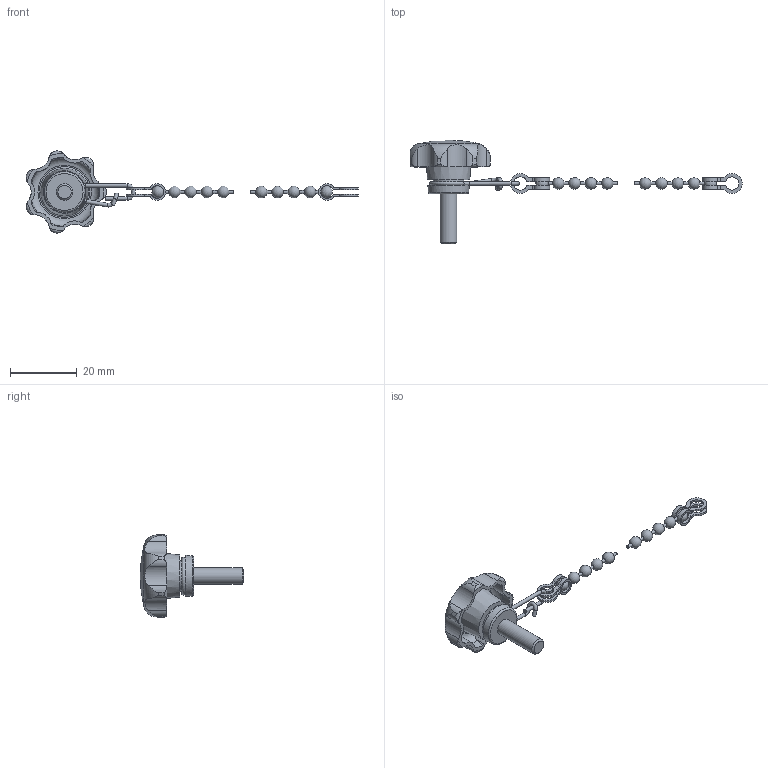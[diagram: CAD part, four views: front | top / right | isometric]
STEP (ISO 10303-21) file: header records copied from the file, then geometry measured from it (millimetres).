
FILE_DESCRIPTION( ( 'STEP AP203' ), '1' );
FILE_NAME( 'C:/Temp/Ganter_Step_05_03_2020/data/2_2/gn_6336_13/gn_6336_13_2/Star knob GN 6336.13-25-M5-15-K.stp', '2020-03-05T12:12:01', ( 'License CC BY-ND 4.0' ), ( 'CADENAS' ), ' ', 'PARTsolutions', ' ' );
FILE_SCHEMA( ( 'CONFIG_CONTROL_DESIGN' ) );
Length unit declared in the file: millimetre
Products named in the file (3): Star knob GN 6336.13-25-M5-15-K; _Star knob GN 6336.13-25-M5-15-K 6; _Star knob GN 111.5-200-14 k2
Assembly tree (2 placements, depth 2):
  Star knob GN 6336.13-25-M5-15-K
    _Star knob GN 6336.13-25-M5-15-K 6
    _Star knob GN 111.5-200-14 k2
Bounding box: 99.5 x 31 x 24.58 mm (x, y, z)
Volume: 3680.7 mm3; surface area: 3418.8 mm2
Topology: 2 solids, 2 shells, 169 faces, 488 edges, 315 vertices
Faces by surface type: cylinder 101, plane 28, torus 18, cone 11, sphere 11
Full cylindrical faces by diameter (mm): 0.9 x10, 1.1 x6, 5 x1, 9.1 x1
Entity records: 6044 total; most frequent: CARTESIAN_POINT 1785, DIRECTION 880, ORIENTED_EDGE 840, EDGE_CURVE 420, AXIS2_PLACEMENT_3D 379, VERTEX_POINT 300, EDGE_LOOP 221, CIRCLE 207
